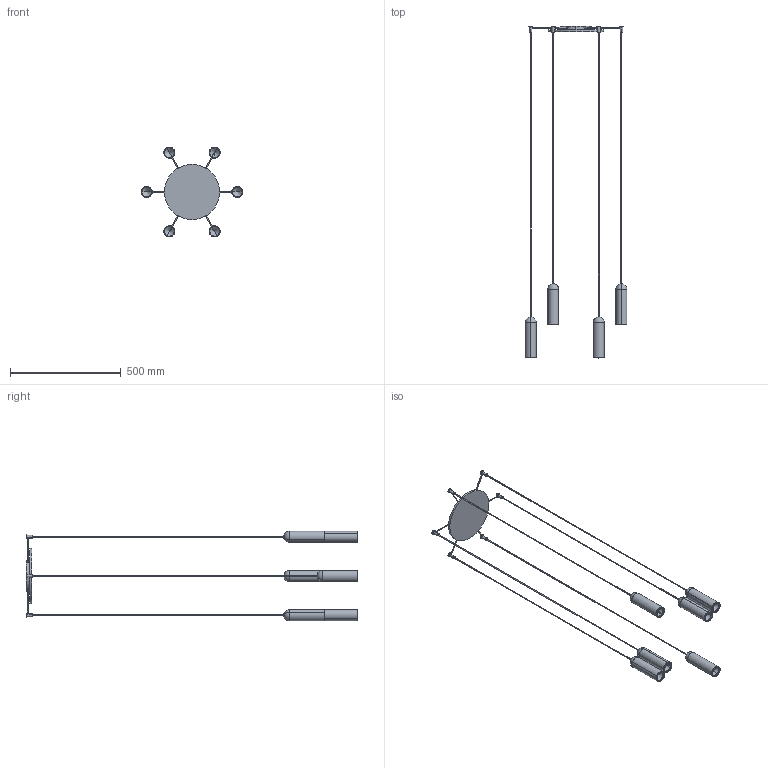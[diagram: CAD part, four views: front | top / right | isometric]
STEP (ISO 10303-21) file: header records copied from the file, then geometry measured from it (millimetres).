
FILE_DESCRIPTION (( 'STEP AP203' ), '1' );
FILE_NAME ('NAN06-00-NANUM_6 sospensione.STEP', '2025-05-05T14:38:46', ( '' ), ( '' ), 'SwSTEP 2.0', 'SolidWorks 2022', '' );
FILE_SCHEMA (( 'CONFIG_CONTROL_DESIGN' ));
Length unit declared in the file: millimetre
Products named in the file (4): NAN06-00-NANUM_6 sospensione; NANUM_Rosone diam.250_Nanum 6<A macchina>; NANUM_LAMPADA SINGOLA_H=1500; NANUM_LAMPADA SINGOLA_H=1650
Assembly tree (7 placements, depth 2):
  NAN06-00-NANUM_6 sospensione
    NANUM_Rosone diam.250_Nanum 6<A macchina>
    NANUM_LAMPADA SINGOLA_H=1500  x3
    NANUM_LAMPADA SINGOLA_H=1650  x3
Bounding box: 460 x 1500 x 405.07 mm (x, y, z)
Volume: 1248933.5 mm3; surface area: 588314.5 mm2
Topology: 19 solids, 19 shells, 228 faces, 494 edges, 281 vertices
Faces by surface type: cylinder 121, plane 47, cone 24, sphere 24, torus 12
Entity records: 3100 total; most frequent: CARTESIAN_POINT 578, DIRECTION 479, ORIENTED_EDGE 364, AXIS2_PLACEMENT_3D 210, EDGE_CURVE 182, VERTEX_POINT 113, EDGE_LOOP 109, CIRCLE 100
